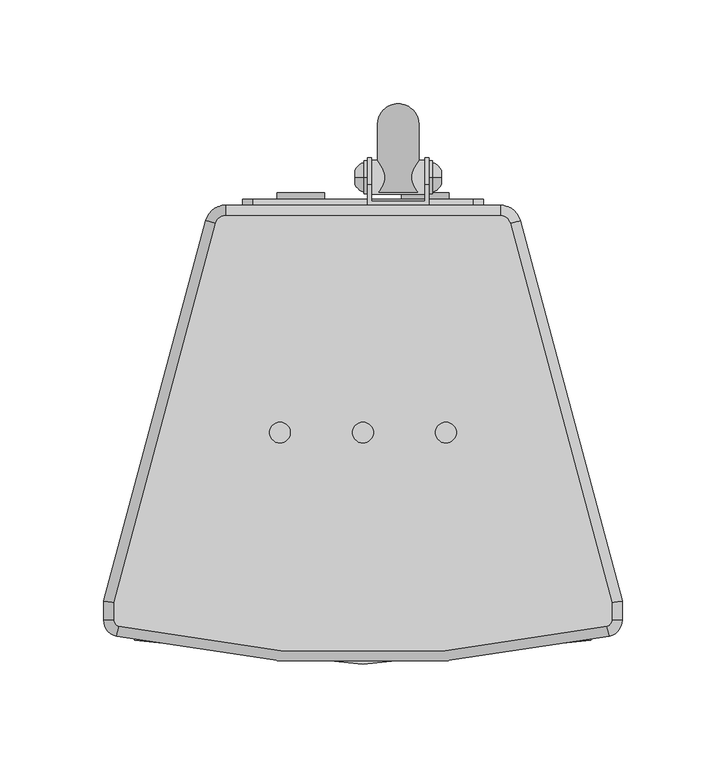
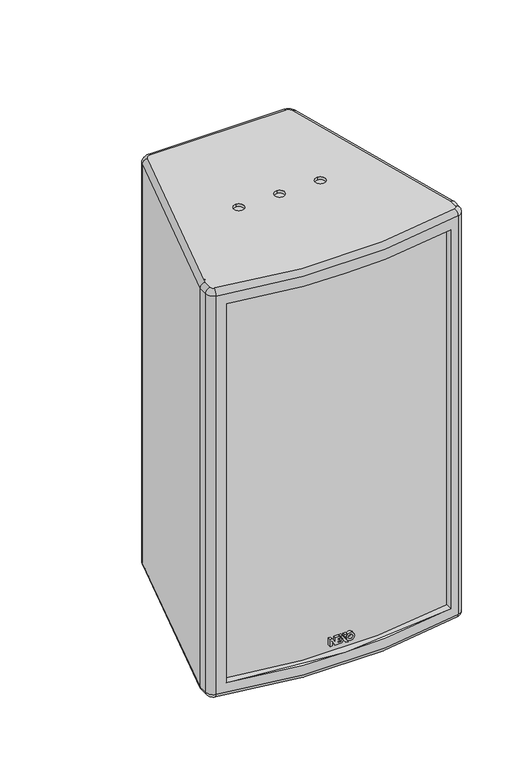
"""IFC4 building model written with IfcOpenShell, lengths in millimetres: proxy geometry, ePS8-WB02-WVM : ePS8-WB02-WVM."""

from ifc_helpers import new_model, si_unit, point, frame, frame_2d, origin, place, context, project, spatial, polyline, circle_curve, ellipse_curve, trimmed, segment, composite_curve, outline, extrude, source, transform, mapped, element, save
from ifc_brep_helpers import plane_surface, cylinder_surface, revolved_surface, advanced_brep


def generic_models_2c264fad(model_context):
    return source(origin(), model_context, "Body", "SolidModel", [
        extrude(outline(polyline([(-191.9209673, -28.9364103), (-199.2007344, -28.9364103), (-199.2007344, -27.0440431), (-195.0354042, -27.0440431), (-199.2007344, -24.2689461), (-199.2007344, -17.4180364), (-197.3257632, -16.0994641), (-195.7262298, -17.1628412), (-197.5980699, -18.5323838), (-197.5980699, -21.5660131), (-196.3437826, -21.5660131), (-196.3437826, -19.2829003), (-194.7410523, -19.2829003), (-194.7410523, -21.5660131), (-193.5245491, -21.5660131), (-193.5245491, -19.1589384), (-192.7245491, -19.1589384), (-191.9218189, -19.6925972), (-191.9218189, -23.9609732), (-196.3718749, -23.9706648), (-191.9209673, -26.909931), (-191.9209673, -28.9364103)])), frame((0.0, -275.5, 0.0), z_axis=(0.0, 1.0, 0.0), x_axis=(0.0, 0.0, 1.0)), (0.0, 0.0, 1.0), 3.0),
        extrude(outline(polyline([(-191.9209673, -19.0512821), (-200.1619142, -13.5726629), (-200.1619142, -11.3794602), (-191.9209673, -16.8580794), (-191.9209673, -19.0512821)])), frame((0.0, -275.5, 0.0), z_axis=(0.0, 1.0, 0.0), x_axis=(0.0, 0.0, 1.0)), (0.0, 0.0, 1.0), 3.0),
        extrude(outline(polyline([(-191.9209673, -12.310648), (-191.9209673, -14.6374386), (-193.1889243, -15.3852329), (-194.8198182, -14.3010071), (-191.9209673, -12.310648)])), frame((0.0, -275.5, 0.0), z_axis=(0.0, 1.0, 0.0), x_axis=(0.0, 0.0, 1.0)), (0.0, 0.0, 1.0), 3.0),
        extrude(outline(composite_curve([segment(trimmed(circle_curve(frame_2d((-195.5918053, -8.9250368)), 3.9406238), [point((-195.5918053, -12.8656607))], [point((-195.5918053, -4.984413))], False, "CARTESIAN"), True, "CONTINUOUS"), segment(trimmed(circle_curve(frame_2d((-195.5918053, -8.9250368)), 3.9406238), [point((-195.5918053, -4.984413))], [point((-195.5918053, -12.8656607))], False, "CARTESIAN"), True, "CONTINUOUS")], self_intersect=False), holes=[composite_curve([segment(trimmed(circle_curve(frame_2d((-195.5918053, -8.9250368)), 2.0681078), [point((-195.5918053, -10.9931446))], [point((-195.5918053, -6.8569291))], True, "CARTESIAN"), True, "CONTINUOUS"), segment(trimmed(circle_curve(frame_2d((-195.5918053, -8.9250368)), 2.0681078), [point((-195.5918053, -6.8569291))], [point((-195.5918053, -10.9931446))], True, "CARTESIAN"), True, "CONTINUOUS")], self_intersect=False)]), frame((0.0, -275.5, 0.0), z_axis=(0.0, 1.0, 0.0), x_axis=(0.0, 0.0, 1.0)), (0.0, 0.0, 1.0), 3.0),
        extrude(outline(composite_curve([segment(trimmed(circle_curve(frame_2d((-183.8619142, 12.9999424)), 11.4515227), [point((-183.8619142, 24.4514651))], [point((-183.8619142, 1.5484198))], False, "CARTESIAN"), True, "CONTINUOUS"), segment(trimmed(circle_curve(frame_2d((-183.8619142, 12.9999424)), 11.4515227), [point((-183.8619142, 1.5484198))], [point((-183.8619142, 24.4514651))], False, "CARTESIAN"), True, "CONTINUOUS")], self_intersect=False), holes=[composite_curve([segment(trimmed(circle_curve(frame_2d((-183.8619142, 12.9999424)), 5.0), [point((-183.8619142, 17.9999424))], [point((-183.8619142, 7.9999424))], True, "CARTESIAN"), True, "CONTINUOUS"), segment(trimmed(circle_curve(frame_2d((-183.8619142, 12.9999424)), 5.0), [point((-183.8619142, 7.9999424))], [point((-183.8619142, 17.9999424))], True, "CARTESIAN"), True, "CONTINUOUS")], self_intersect=False)]), frame((0.0, -56.5, 0.0), z_axis=(0.0, 1.0, 0.0), x_axis=(0.0, 0.0, 1.0)), (0.0, 0.0, 1.0), 3.0),
        extrude(outline(composite_curve([segment(trimmed(circle_curve(frame_2d((-183.8619142, -47.0000576)), 11.4515227), [point((-183.8619142, -35.5485349))], [point((-183.8619142, -58.4515802))], False, "CARTESIAN"), True, "CONTINUOUS"), segment(trimmed(circle_curve(frame_2d((-183.8619142, -47.0000576)), 11.4515227), [point((-183.8619142, -58.4515802))], [point((-183.8619142, -35.5485349))], False, "CARTESIAN"), True, "CONTINUOUS")], self_intersect=False), holes=[composite_curve([segment(trimmed(circle_curve(frame_2d((-183.8619142, -47.0000576)), 5.0), [point((-183.8619142, -42.0000576))], [point((-183.8619142, -52.0000576))], True, "CARTESIAN"), True, "CONTINUOUS"), segment(trimmed(circle_curve(frame_2d((-183.8619142, -47.0000576)), 5.0), [point((-183.8619142, -52.0000576))], [point((-183.8619142, -42.0000576))], True, "CARTESIAN"), True, "CONTINUOUS")], self_intersect=False)]), frame((0.0, -56.5, 0.0), z_axis=(0.0, 1.0, 0.0), x_axis=(0.0, 0.0, 1.0)), (0.0, 0.0, 1.0), 3.0),
        extrude(outline(composite_curve([segment(polyline([(-164.8619142, 35.9999424), (-164.8619142, -70.0000576)]), True, "CONTINUOUS"), segment(trimmed(circle_curve(frame_2d((-169.8619142, -70.0000576)), 5.0), [point((-164.8619142, -70.0000576))], [point((-169.8619142, -75.0000576))], False, "CARTESIAN"), True, "CONTINUOUS"), segment(polyline([(-169.8619142, -75.0000576), (-197.8619142, -75.0000576)]), True, "CONTINUOUS"), segment(trimmed(circle_curve(frame_2d((-197.8619142, -70.0000576)), 5.0), [point((-197.8619142, -75.0000576))], [point((-202.8619142, -70.0000576))], False, "CARTESIAN"), True, "CONTINUOUS"), segment(polyline([(-202.8619142, -70.0000576), (-202.8619142, 35.9999424)]), True, "CONTINUOUS"), segment(trimmed(circle_curve(frame_2d((-197.8619142, 35.9999424)), 5.0), [point((-202.8619142, 35.9999424))], [point((-197.8619142, 40.9999424))], False, "CARTESIAN"), True, "CONTINUOUS"), segment(polyline([(-197.8619142, 40.9999424), (-169.8619142, 40.9999424)]), True, "CONTINUOUS"), segment(trimmed(circle_curve(frame_2d((-169.8619142, 35.9999424)), 5.0), [point((-169.8619142, 40.9999424))], [point((-164.8619142, 35.9999424))], False, "CARTESIAN"), True, "CONTINUOUS")], self_intersect=False)), frame((0.0, -59.5, 0.0), z_axis=(0.0, 1.0, 0.0), x_axis=(0.0, 0.0, 1.0)), (0.0, 0.0, 1.0), 3.0),
        advanced_brep(
        [(-88.0680581, -68.2059048, 201.6380858), (-137.0000576, -250.822613, 201.6380858), (-137.0000576, -259.3294755, 201.6380858), (-134.670601, -262.2535773, 201.6380858), (100.6704859, -262.2535773, 201.6380858), (102.9999424, -259.3294755, 201.6380858), (102.9999424, -250.822613, 201.6380858), (54.067943, -68.2059048, 201.6380858), (49.2383138, -64.5, 201.6380858), (-83.2384289, -64.5, 201.6380858), (-17.0000576, -174.0, 201.6380858), (-17.0000576, -164.0, 201.6380858), (-57.0000576, -174.0, 201.6380858), (-57.0000576, -164.0, 201.6380858), (22.9999424, -174.0, 201.6380858), (22.9999424, -164.0, 201.6380858), (-137.0000576, -250.822613, -221.3619142), (-88.0680581, -68.2059048, -221.3619142), (-83.2384289, -64.5, -221.3619142), (49.2383138, -64.5, -221.3619142), (54.067943, -68.2059048, -221.3619142), (102.9999424, -250.822613, -221.3619142), (102.9999424, -259.3294755, -221.3619142), (100.6704859, -262.2535773, -221.3619142), (-134.670601, -262.2535773, -221.3619142), (-137.0000576, -259.3294755, -221.3619142), (-17.0000576, -164.0, -221.3619142), (-17.0000576, -174.0, -221.3619142), (-57.0000576, -164.0, -221.3619142), (-57.0000576, -174.0, -221.3619142), (22.9999424, -164.0, -221.3619142), (22.9999424, -174.0, -221.3619142), (-83.2384289, -59.5, 196.6380858), (49.2383138, -59.5, 196.6380858), (49.2383138, -59.5, -216.3619142), (-83.2384289, -59.5, -216.3619142), (-64.3433398, -59.5, 10.1423877), (-75.6566602, -59.5, 10.1423877), (5.6566602, -59.5, 10.1423877), (-5.6566602, -59.5, 10.1423877), (5.6566602, -59.5, 80.1423877), (-5.6566602, -59.5, 80.1423877), (101.7880584, -267.1270803, 196.6380858), (-135.7881735, -267.1270803, 196.6380858), (-135.7881735, -267.1270803, -216.3619141), (101.7880584, -267.1270803, -216.3619142), (-127.0000576, -269.0641688, 186.6380858), (92.9999424, -269.0641688, 186.6380858), (92.9999424, -269.0641688, -206.3619142), (-127.0000576, -269.0641688, -206.3619142), (107.9999424, -259.3294755, 196.6380858), (107.9999424, -259.3294755, -216.3619142), (107.9999424, -250.1643505, 196.6380858), (107.9999424, -250.1643505, -216.3619142), (58.8975721, -66.9118095, 196.6380858), (58.8975721, -66.9118095, -216.3619142), (-92.8976872, -66.9118095, 196.6380858), (-92.8976872, -66.9118095, -216.3619142), (-142.0000576, -250.1643505, 196.6380858), (-142.0000576, -250.1643505, -216.3619142), (-142.0000576, -259.3294755, 196.6380858), (-142.0000576, -259.3294755, -216.3619142), (-17.0000576, -164.0, 198.6380858), (-17.0000576, -174.0, 198.6380858), (-57.0000576, -164.0, 198.6380858), (-57.0000576, -174.0, 198.6380858), (22.9999424, -164.0, 198.6380858), (22.9999424, -174.0, 198.6380858), (-127.0000576, -262.3234349, 186.6380858), (92.9999424, -262.2137672, 186.6380858), (92.9999424, -262.2137672, -206.3619142), (-127.0000576, -262.3234349, -206.3619142), (-17.0000576, -164.0, -218.3619142), (-17.0000576, -174.0, -218.3619142), (-57.0000576, -164.0, -218.3619142), (-57.0000576, -174.0, -218.3619142), (22.9999424, -164.0, -218.3619142), (22.9999424, -174.0, -218.3619142), (-64.3433398, -62.5, 10.1423877), (-75.6566602, -62.5, 10.1423877), (5.6566602, -62.5, 10.1423877), (-5.6566602, -62.5, 10.1423877), (5.6566602, -62.5, 80.1423877), (-5.6566602, -62.5, 80.1423877)],
        [
            (0, 1),
            (1, 2),
            (2, 3, circle_curve(frame((-134.0000576, -259.3294755, 201.6380858), z_axis=(0.0, 0.0, 1.0), x_axis=(-0.22351449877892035, -0.9747006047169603, 0.0)), 3.0)),
            (3, 4, circle_curve(frame((-17.0000576, 250.8833804, 201.6380858), z_axis=(0.0, 0.0, 1.0), x_axis=(0.22351449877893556, -0.9747006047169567, 0.0)), 526.4559755)),
            (4, 5, circle_curve(frame((99.9999424, -259.3294755, 201.6380858), z_axis=(0.0, 0.0, 1.0), x_axis=(1.0, 0.0, 0.0)), 3.0)),
            (5, 6),
            (6, 7),
            (7, 8, circle_curve(frame((49.2383138, -69.5, 201.6380858), z_axis=(0.0, 0.0, 1.0), x_axis=(0.0, 1.0, 0.0)), 5.0)),
            (8, 9),
            (9, 0, circle_curve(frame((-83.2384289, -69.5, 201.6380858), z_axis=(0.0, 0.0, 1.0), x_axis=(-0.9659258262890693, 0.25881904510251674, 0.0)), 5.0)),
            (10, 11, circle_curve(frame((-17.0000576, -169.0, 201.6380858), z_axis=(0.0, 0.0, -1.0), x_axis=(0.0, -1.0, 0.0)), 5.0)),
            (11, 10, circle_curve(frame((-17.0000576, -169.0, 201.6380858), z_axis=(0.0, 0.0, -1.0), x_axis=(0.0, -1.0, 0.0)), 5.0)),
            (12, 13, circle_curve(frame((-57.0000576, -169.0, 201.6380858), z_axis=(0.0, 0.0, -1.0), x_axis=(0.0, -1.0, 0.0)), 5.0)),
            (13, 12, circle_curve(frame((-57.0000576, -169.0, 201.6380858), z_axis=(0.0, 0.0, -1.0), x_axis=(0.0, -1.0, 0.0)), 5.0)),
            (14, 15, circle_curve(frame((22.9999424, -169.0, 201.6380858), z_axis=(0.0, 0.0, -1.0), x_axis=(0.0, -1.0, 0.0)), 5.0)),
            (15, 14, circle_curve(frame((22.9999424, -169.0, 201.6380858), z_axis=(0.0, 0.0, -1.0), x_axis=(0.0, -1.0, 0.0)), 5.0)),
            (16, 17),
            (17, 18, circle_curve(frame((-83.2384289, -69.5, -221.3619142), z_axis=(0.0, 0.0, -1.0), x_axis=(-0.9659258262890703, 0.2588190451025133, 0.0)), 5.0)),
            (18, 19),
            (19, 20, circle_curve(frame((49.2383138, -69.5, -221.3619142), z_axis=(0.0, 0.0, -1.0), x_axis=(0.0, 1.0, 0.0)), 5.0)),
            (20, 21),
            (21, 22),
            (22, 23, circle_curve(frame((99.9999424, -259.3294755, -221.3619142), z_axis=(0.0, 0.0, -1.0), x_axis=(1.0, 0.0, 0.0)), 3.0)),
            (23, 24, circle_curve(frame((-17.0000576, 250.8833804, -221.3619142), z_axis=(0.0, 0.0, -1.0), x_axis=(0.22351449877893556, -0.9747006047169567, 0.0)), 526.4559755)),
            (24, 25, circle_curve(frame((-134.0000576, -259.3294755, -221.3619142), z_axis=(0.0, 0.0, -1.0), x_axis=(-0.22351449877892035, -0.9747006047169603, 0.0)), 3.0)),
            (25, 16),
            (26, 27, circle_curve(frame((-17.0000576, -169.0, -221.3619142), z_axis=(0.0, 0.0, 1.0), x_axis=(0.0, -1.0, 0.0)), 5.0)),
            (27, 26, circle_curve(frame((-17.0000576, -169.0, -221.3619142), z_axis=(0.0, 0.0, 1.0), x_axis=(0.0, -1.0, 0.0)), 5.0)),
            (28, 29, circle_curve(frame((-57.0000576, -169.0, -221.3619142), z_axis=(0.0, 0.0, 1.0), x_axis=(0.0, -1.0, 0.0)), 5.0)),
            (29, 28, circle_curve(frame((-57.0000576, -169.0, -221.3619142), z_axis=(0.0, 0.0, 1.0), x_axis=(0.0, -1.0, 0.0)), 5.0)),
            (30, 31, circle_curve(frame((22.9999424, -169.0, -221.3619142), z_axis=(0.0, 0.0, 1.0), x_axis=(0.0, -1.0, 0.0)), 5.0)),
            (31, 30, circle_curve(frame((22.9999424, -169.0, -221.3619142), z_axis=(0.0, 0.0, 1.0), x_axis=(0.0, -1.0, 0.0)), 5.0)),
            (32, 33),
            (33, 34),
            (34, 35),
            (35, 32),
            (36, 37, circle_curve(frame((-70.0, -59.5, 10.1423877), z_axis=(0.0, -1.0, 0.0), x_axis=(-1.0, 0.0, 0.0)), 5.6566602)),
            (37, 36, circle_curve(frame((-70.0, -59.5, 10.1423877), z_axis=(0.0, -1.0, 0.0), x_axis=(-1.0, 0.0, 0.0)), 5.6566602)),
            (38, 39, circle_curve(frame((0.0, -59.5, 10.1423877), z_axis=(0.0, -1.0, 0.0), x_axis=(-1.0, 0.0, 0.0)), 5.6566602)),
            (39, 38, circle_curve(frame((0.0, -59.5, 10.1423877), z_axis=(0.0, -1.0, 0.0), x_axis=(-1.0, 0.0, 0.0)), 5.6566602)),
            (40, 41, circle_curve(frame((0.0, -59.5, 80.1423877), z_axis=(0.0, -1.0, 0.0), x_axis=(-1.0, 0.0, 0.0)), 5.6566602)),
            (41, 40, circle_curve(frame((0.0, -59.5, 80.1423877), z_axis=(0.0, -1.0, 0.0), x_axis=(-1.0, 0.0, 0.0)), 5.6566602)),
            (42, 43, circle_curve(frame((-17.0000576, 250.8833804, 196.6380858), z_axis=(0.0, 0.0, -1.0), x_axis=(1.0, 0.0, 0.0)), 531.4559755)),
            (43, 44),
            (44, 45, circle_curve(frame((-17.0000576, 250.8833804, -216.3619142), z_axis=(0.0, 0.0, 1.0), x_axis=(1.0, 0.0, 0.0)), 531.4559755)),
            (45, 42),
            (46, 47, circle_curve(frame((-17.0000576, 250.8833804, 186.6380858), z_axis=(0.0, 0.0, 1.0), x_axis=(1.0, 0.0, 0.0)), 531.4559755)),
            (47, 48),
            (48, 49, circle_curve(frame((-17.0000576, 250.8833804, -206.3619142), z_axis=(0.0, 0.0, -1.0), x_axis=(1.0, 0.0, 0.0)), 531.4559755)),
            (49, 46),
            (50, 42, circle_curve(frame((99.9999424, -259.3294755, 196.6380858), z_axis=(0.0, 0.0, -1.0), x_axis=(1.0, 0.0, 0.0)), 8.0)),
            (45, 51, circle_curve(frame((99.9999424, -259.3294755, -216.3619142), z_axis=(0.0, 0.0, 1.0), x_axis=(1.0, 0.0, 0.0)), 8.0)),
            (51, 50),
            (52, 50),
            (51, 53),
            (53, 52),
            (54, 52),
            (53, 55),
            (55, 54),
            (33, 54, circle_curve(frame((49.2383138, -69.5, 196.6380858), z_axis=(0.0, 0.0, -1.0), x_axis=(1.0, 0.0, 0.0)), 10.0)),
            (55, 34, circle_curve(frame((49.2383138, -69.5, -216.3619142), z_axis=(0.0, 0.0, 1.0), x_axis=(1.0, 0.0, 0.0)), 10.0)),
            (56, 32, circle_curve(frame((-83.2384289, -69.5, 196.6380858), z_axis=(0.0, 0.0, -1.0), x_axis=(1.0, 0.0, 0.0)), 10.0)),
            (35, 57, circle_curve(frame((-83.2384289, -69.5, -216.3619142), z_axis=(0.0, 0.0, 1.0), x_axis=(1.0, 0.0, 0.0)), 10.0)),
            (57, 56),
            (58, 56),
            (57, 59),
            (59, 58),
            (60, 58),
            (59, 61),
            (61, 60),
            (43, 60, circle_curve(frame((-134.0000576, -259.3294755, 196.6380858), z_axis=(0.0, 0.0, -1.0), x_axis=(1.0, 0.0, 0.0)), 8.0)),
            (61, 44, circle_curve(frame((-134.0000576, -259.3294755, -216.3619142), z_axis=(0.0, 0.0, 1.0), x_axis=(1.0, 0.0, 0.0)), 8.0)),
            (62, 63, circle_curve(frame((-17.0000576, -169.0, 198.6380858), z_axis=(0.0, 0.0, 1.0), x_axis=(0.0, -1.0, 0.0)), 5.0)),
            (63, 62, circle_curve(frame((-17.0000576, -169.0, 198.6380858), z_axis=(0.0, 0.0, 1.0), x_axis=(0.0, -1.0, 0.0)), 5.0)),
            (64, 65, circle_curve(frame((-57.0000576, -169.0, 198.6380858), z_axis=(0.0, 0.0, 1.0), x_axis=(0.0, -1.0, 0.0)), 5.0)),
            (65, 64, circle_curve(frame((-57.0000576, -169.0, 198.6380858), z_axis=(0.0, 0.0, 1.0), x_axis=(0.0, -1.0, 0.0)), 5.0)),
            (66, 67, circle_curve(frame((22.9999424, -169.0, 198.6380858), z_axis=(0.0, 0.0, 1.0), x_axis=(0.0, -1.0, 0.0)), 5.0)),
            (67, 66, circle_curve(frame((22.9999424, -169.0, 198.6380858), z_axis=(0.0, 0.0, 1.0), x_axis=(0.0, -1.0, 0.0)), 5.0)),
            (62, 11),
            (10, 63),
            (64, 13),
            (12, 65),
            (66, 15),
            (14, 67),
            (46, 68),
            (68, 69, circle_curve(frame((-17.2541484, 247.4531533, 186.6380858), z_axis=(0.0, 0.0, 1.0), x_axis=(1.0, 0.0, 0.0)), 521.4559755)),
            (69, 47),
            (48, 70),
            (70, 71, circle_curve(frame((-17.2541484, 247.4531533, -206.3619142), z_axis=(0.0, 0.0, -1.0), x_axis=(1.0, 0.0, 0.0)), 521.4559755)),
            (71, 49),
            (69, 70),
            (68, 71),
            (0, 56, circle_curve(frame((-88.0680581, -68.2059048, 196.6380858), z_axis=(-0.25881904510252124, -0.9659258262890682, 0.0), x_axis=(-0.9659258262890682, 0.25881904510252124, 0.0)), 5.0)),
            (58, 1, ellipse_curve(frame((-137.0000576, -250.822613, 196.6380858), z_axis=(0.130526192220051, 0.9914448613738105, 0.0), x_axis=(0.9914448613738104, -0.13052619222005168, 0.0)), 5.0431448, 5.0)),
            (9, 32, circle_curve(frame((-83.2384289, -64.5, 196.6380858), z_axis=(-1.0, 0.0, 0.0), x_axis=(0.0, 1.0, 0.0)), 5.0)),
            (8, 33, circle_curve(frame((49.2383138, -64.5, 196.6380858), z_axis=(-1.0, 0.0, 0.0), x_axis=(0.0, 1.0, 0.0)), 5.0)),
            (7, 54, circle_curve(frame((54.067943, -68.2059048, 196.6380858), z_axis=(-0.2588190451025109, 0.9659258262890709, 0.0), x_axis=(0.9659258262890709, 0.2588190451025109, 0.0)), 5.0)),
            (6, 52, ellipse_curve(frame((102.9999424, -250.822613, 196.6380858), z_axis=(-0.1305261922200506, 0.9914448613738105, 0.0), x_axis=(0.9914448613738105, 0.1305261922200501, 0.0)), 5.0431448, 5.0)),
            (60, 2, circle_curve(frame((-137.0000576, -259.3294755, 196.6380858), z_axis=(0.0, 1.0, 0.0), x_axis=(-1.0, 0.0, 0.0)), 5.0)),
            (5, 50, circle_curve(frame((102.9999424, -259.3294755, 196.6380858), z_axis=(0.0, 1.0, 0.0), x_axis=(1.0, 0.0, 0.0)), 5.0)),
            (4, 42, circle_curve(frame((100.6704859, -262.2535773, 196.6380858), z_axis=(0.9747006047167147, 0.22351449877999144, 0.0), x_axis=(0.22351449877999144, -0.9747006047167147, 0.0)), 5.0)),
            (3, 43, circle_curve(frame((-134.670601, -262.2535773, 196.6380858), z_axis=(0.9747006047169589, -0.22351449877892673, 0.0), x_axis=(-0.22351449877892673, -0.9747006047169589, 0.0)), 5.0)),
            (57, 17, circle_curve(frame((-88.0680581, -68.2059048, -216.3619142), z_axis=(-0.2588190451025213, -0.9659258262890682, 0.0), x_axis=(-0.9659258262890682, 0.2588190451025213, 0.0)), 5.0)),
            (16, 59, ellipse_curve(frame((-137.0000576, -250.822613, -216.3619142), z_axis=(0.13052619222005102, 0.9914448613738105, 0.0), x_axis=(0.9914448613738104, -0.13052619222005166, 0.0)), 5.0431448, 5.0)),
            (35, 18, circle_curve(frame((-83.2384289, -64.5, -216.3619142), z_axis=(-1.0, 0.0, 0.0), x_axis=(0.0, 1.0, 0.0)), 5.0)),
            (34, 19, circle_curve(frame((49.2383138, -64.5, -216.3619142), z_axis=(-1.0, 0.0, 0.0), x_axis=(0.0, 1.0, 0.0)), 5.0)),
            (55, 20, circle_curve(frame((54.067943, -68.2059048, -216.3619142), z_axis=(-0.25881904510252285, 0.9659258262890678, 0.0), x_axis=(0.9659258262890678, 0.25881904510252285, 0.0)), 5.0)),
            (53, 21, ellipse_curve(frame((102.9999424, -250.822613, -216.3619142), z_axis=(-0.13052619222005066, 0.9914448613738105, 0.0), x_axis=(0.9914448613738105, 0.1305261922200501, 0.0)), 5.0431448, 5.0)),
            (25, 61, circle_curve(frame((-137.0000576, -259.3294755, -216.3619142), z_axis=(0.0, 1.0, 0.0), x_axis=(-1.0, 0.0, 0.0)), 5.0)),
            (51, 22, circle_curve(frame((102.9999424, -259.3294755, -216.3619142), z_axis=(0.0, 1.0, 0.0), x_axis=(1.0, 0.0, 0.0)), 5.0)),
            (45, 23, circle_curve(frame((100.6704859, -262.2535773, -216.3619142), z_axis=(0.9747006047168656, 0.2235144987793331, 0.0), x_axis=(0.2235144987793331, -0.9747006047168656, 0.0)), 5.0)),
            (44, 24, circle_curve(frame((-134.670601, -262.2535773, -216.3619142), z_axis=(0.9747006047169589, -0.22351449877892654, 0.0), x_axis=(-0.22351449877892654, -0.9747006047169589, 0.0)), 5.0)),
            (72, 73, circle_curve(frame((-17.0000576, -169.0, -218.3619142), z_axis=(0.0, 0.0, -1.0), x_axis=(0.0, -1.0, 0.0)), 5.0)),
            (73, 72, circle_curve(frame((-17.0000576, -169.0, -218.3619142), z_axis=(0.0, 0.0, -1.0), x_axis=(0.0, -1.0, 0.0)), 5.0)),
            (74, 75, circle_curve(frame((-57.0000576, -169.0, -218.3619142), z_axis=(0.0, 0.0, -1.0), x_axis=(0.0, -1.0, 0.0)), 5.0)),
            (75, 74, circle_curve(frame((-57.0000576, -169.0, -218.3619142), z_axis=(0.0, 0.0, -1.0), x_axis=(0.0, -1.0, 0.0)), 5.0)),
            (76, 77, circle_curve(frame((22.9999424, -169.0, -218.3619142), z_axis=(0.0, 0.0, -1.0), x_axis=(0.0, -1.0, 0.0)), 5.0)),
            (77, 76, circle_curve(frame((22.9999424, -169.0, -218.3619142), z_axis=(0.0, 0.0, -1.0), x_axis=(0.0, -1.0, 0.0)), 5.0)),
            (73, 27),
            (26, 72),
            (75, 29),
            (28, 74),
            (77, 31),
            (30, 76),
            (78, 79, circle_curve(frame((-70.0, -62.5, 10.1423877), z_axis=(0.0, 1.0, 0.0), x_axis=(-1.0, 0.0, 0.0)), 5.6566602)),
            (79, 78, circle_curve(frame((-70.0, -62.5, 10.1423877), z_axis=(0.0, 1.0, 0.0), x_axis=(-1.0, 0.0, 0.0)), 5.6566602)),
            (80, 81, circle_curve(frame((0.0, -62.5, 10.1423877), z_axis=(0.0, 1.0, 0.0), x_axis=(-1.0, 0.0, 0.0)), 5.6566602)),
            (81, 80, circle_curve(frame((0.0, -62.5, 10.1423877), z_axis=(0.0, 1.0, 0.0), x_axis=(-1.0, 0.0, 0.0)), 5.6566602)),
            (82, 83, circle_curve(frame((0.0, -62.5, 80.1423877), z_axis=(0.0, 1.0, 0.0), x_axis=(-1.0, 0.0, 0.0)), 5.6566602)),
            (83, 82, circle_curve(frame((0.0, -62.5, 80.1423877), z_axis=(0.0, 1.0, 0.0), x_axis=(-1.0, 0.0, 0.0)), 5.6566602)),
            (79, 37),
            (36, 78),
            (81, 39),
            (38, 80),
            (83, 41),
            (40, 82),
        ],
        [
            plane_surface(frame((107.9999424, -259.3294755, 201.6380858), z_axis=(0.0, 0.0, 1.0), x_axis=(0.0, 1.0, 0.0))),
            plane_surface(frame((107.9999424, -259.3294755, -221.3619142), z_axis=(0.0, 0.0, -1.0), x_axis=(0.0, -1.0, 0.0))),
            plane_surface(frame((49.2383138, -59.5, 201.6380858), z_axis=(0.0, 1.0, 0.0), x_axis=(0.0, 0.0, -1.0))),
            cylinder_surface(frame((-17.0000576, 250.8833804, -221.3619142), z_axis=(0.0, 0.0, 1.0), x_axis=(1.0, 0.0, 0.0)), 531.4559755),
            cylinder_surface(frame((99.9999424, -259.3294755, -221.3619142), z_axis=(0.0, 0.0, 1.0), x_axis=(1.0, 0.0, 0.0)), 8.0),
            plane_surface(frame((107.9999424, -259.3294755, 201.6380858), z_axis=(1.0, 0.0, 0.0), x_axis=(0.0, 0.0, -1.0))),
            plane_surface(frame((107.9999424, -250.1643505, 201.6380858), z_axis=(0.9659258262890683, 0.2588190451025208, 0.0), x_axis=(0.0, 0.0, -1.0))),
            cylinder_surface(frame((49.2383138, -69.5, -221.3619142), z_axis=(0.0, 0.0, 1.0), x_axis=(1.0, 0.0, 0.0)), 10.0),
            cylinder_surface(frame((-83.2384289, -69.5, -221.3619142), z_axis=(0.0, 0.0, 1.0), x_axis=(1.0, 0.0, 0.0)), 10.0),
            plane_surface(frame((-92.8976872, -66.9118095, 201.6380858), z_axis=(-0.9659258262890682, 0.2588190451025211, 0.0), x_axis=(0.0, 0.0, -1.0))),
            plane_surface(frame((-142.0000576, -250.1643505, 201.6380858), z_axis=(-1.0, 0.0, 0.0), x_axis=(0.0, 0.0, -1.0))),
            cylinder_surface(frame((-134.0000576, -259.3294755, -221.3619142), z_axis=(0.0, 0.0, 1.0), x_axis=(1.0, 0.0, 0.0)), 8.0),
            plane_surface(frame((-17.0000576, -174.0, 198.6380858), z_axis=(0.0, 0.0, 1.0), x_axis=(-1.0, 0.0, 0.0))),
            revolved_surface(polyline([(-17.0000576, -174.0, 201.6380858), (-17.0000576, -174.0, 198.6380858)]), (-17.0000576, -169.0, 198.6380858), (0.0, 0.0, 1.0)),
            revolved_surface(polyline([(-57.0000576, -174.0, 201.6380858), (-57.0000576, -174.0, 198.6380858)]), (-57.0000576, -169.0, 201.6380858), (0.0, 0.0, 1.0)),
            revolved_surface(polyline([(22.9999424, -174.0, 201.6380858), (22.9999424, -174.0, 198.6380858)]), (22.9999424, -169.0, 201.6380858), (0.0, 0.0, 1.0)),
            plane_surface(frame((92.9999424, -326.7599178, 186.6380858), z_axis=(0.0, 0.0, -1.0), x_axis=(0.0, 1.0, 0.0))),
            plane_surface(frame((92.9999424, -326.7599178, -206.3619142), z_axis=(0.0, 0.0, 1.0), x_axis=(0.0, -1.0, 0.0))),
            plane_surface(frame((92.9999424, -269.0641688, 186.6380858), z_axis=(-1.0, 0.0, 0.0), x_axis=(0.0, 0.0, -1.0))),
            cylinder_surface(frame((-17.2541484, 247.4531533, -206.3619142), z_axis=(0.0, 0.0, -1.0), x_axis=(1.0, 0.0, 0.0)), 521.4559755),
            plane_surface(frame((-127.0000576, -262.3234349, 186.6380858), z_axis=(1.0, 0.0, 0.0), x_axis=(0.0, 0.0, -1.0))),
            cylinder_surface(frame((-137.1704284, -251.4584457, 196.6380858), z_axis=(0.25881904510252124, 0.9659258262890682, 0.0), x_axis=(-0.9659258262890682, 0.25881904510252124, 0.0)), 5.0),
            revolved_surface(trimmed(ellipse_curve(frame((-88.0680581, -68.2059048, 196.6380858), z_axis=(-0.25881904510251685, -0.9659258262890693, 0.0), x_axis=(-0.9659258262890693, 0.25881904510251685, 0.0)), 5.0, 5.0), [point((-88.0680581, -68.2059048, 201.6380858))], [point((-92.8976872, -66.9118095, 196.6380858))], True, "CARTESIAN"), (-83.2384289, -69.5, 201.6380858), (0.0, 0.0, -1.0)),
            cylinder_surface(frame((-83.2384289, -64.5, 196.6380858), z_axis=(1.0, 0.0, 0.0), x_axis=(0.0, 1.0, 0.0)), 5.0),
            revolved_surface(trimmed(ellipse_curve(frame((49.2383138, -64.5, 196.6380858), z_axis=(-1.0, 0.0, 0.0), x_axis=(0.0, 1.0, 0.0)), 5.0, 5.0), [point((49.2383138, -64.5, 201.6380858))], [point((49.2383138, -59.5, 196.6380858))], True, "CARTESIAN"), (49.2383138, -69.5, 201.6380858), (0.0, 0.0, -1.0)),
            cylinder_surface(frame((54.067943, -68.2059048, 196.6380858), z_axis=(0.25881904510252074, -0.9659258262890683, 0.0), x_axis=(0.9659258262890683, 0.25881904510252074, 0.0)), 5.0),
            cylinder_surface(frame((-137.0000576, -259.3294755, 196.6380858), z_axis=(0.0, 1.0, 0.0), x_axis=(-1.0, 0.0, 0.0)), 5.0),
            cylinder_surface(frame((102.9999424, -250.1643505, 196.6380858), z_axis=(0.0, -1.0, 0.0), x_axis=(1.0, 0.0, 0.0)), 5.0),
            revolved_surface(trimmed(ellipse_curve(frame((102.9999424, -259.3294755, 196.6380858), z_axis=(0.0, 1.0, 0.0), x_axis=(1.0, 0.0, 0.0)), 5.0, 5.0), [point((102.9999424, -259.3294755, 201.6380858))], [point((107.9999424, -259.3294755, 196.6380858))], True, "CARTESIAN"), (99.9999424, -259.3294755, 201.6380858), (0.0, 0.0, -1.0)),
            revolved_surface(trimmed(ellipse_curve(frame((100.6704859, -262.2535773, 196.6380858), z_axis=(0.9747006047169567, 0.2235144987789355, 0.0), x_axis=(0.2235144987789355, -0.9747006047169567, 0.0)), 5.0, 5.0), [point((100.6704859, -262.2535773, 201.6380858))], [point((101.7880584, -267.1270803, 196.6380858))], True, "CARTESIAN"), (-17.0000576, 250.8833804, 201.6380858), (0.0, 0.0, -1.0)),
            revolved_surface(trimmed(ellipse_curve(frame((-134.670601, -262.2535773, 196.6380858), z_axis=(0.9747006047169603, -0.22351449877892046, 0.0), x_axis=(-0.22351449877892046, -0.9747006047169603, 0.0)), 5.0, 5.0), [point((-134.670601, -262.2535773, 201.6380858))], [point((-135.7881735, -267.1270803, 196.6380858))], True, "CARTESIAN"), (-134.0000576, -259.3294755, 201.6380858), (0.0, 0.0, -1.0)),
            cylinder_surface(frame((-137.1704284, -251.4584457, -216.3619142), z_axis=(0.2588190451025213, 0.9659258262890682, 0.0), x_axis=(-0.9659258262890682, 0.2588190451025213, 0.0)), 5.0),
            revolved_surface(trimmed(ellipse_curve(frame((-88.0680581, -68.2059048, -216.3619142), z_axis=(-0.25881904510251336, -0.9659258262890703, 0.0), x_axis=(-0.9659258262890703, 0.25881904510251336, 0.0)), 5.0, 5.0), [point((-92.8976872, -66.9118095, -216.3619142))], [point((-88.0680581, -68.2059048, -221.3619142))], True, "CARTESIAN"), (-83.2384289, -69.5, -221.3619142), (0.0, 0.0, -1.0)),
            cylinder_surface(frame((-83.2384289, -64.5, -216.3619142), z_axis=(1.0, 0.0, 0.0), x_axis=(0.0, 1.0, 0.0)), 5.0),
            revolved_surface(trimmed(ellipse_curve(frame((49.2383138, -64.5, -216.3619142), z_axis=(-1.0, 0.0, 0.0), x_axis=(0.0, 1.0, 0.0)), 5.0, 5.0), [point((49.2383138, -59.5, -216.3619142))], [point((49.2383138, -64.5, -221.3619142))], True, "CARTESIAN"), (49.2383138, -69.5, -221.3619142), (0.0, 0.0, -1.0)),
            cylinder_surface(frame((54.067943, -68.2059048, -216.3619142), z_axis=(0.2588190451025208, -0.9659258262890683, 0.0), x_axis=(0.9659258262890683, 0.2588190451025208, 0.0)), 5.0),
            cylinder_surface(frame((-137.0000576, -259.3294755, -216.3619142), z_axis=(0.0, 1.0, 0.0), x_axis=(-1.0, 0.0, 0.0)), 5.0),
            cylinder_surface(frame((102.9999424, -250.1643505, -216.3619142), z_axis=(0.0, -1.0, 0.0), x_axis=(1.0, 0.0, 0.0)), 5.0),
            revolved_surface(trimmed(ellipse_curve(frame((102.9999424, -259.3294755, -216.3619142), z_axis=(0.0, 1.0, 0.0), x_axis=(1.0, 0.0, 0.0)), 5.0, 5.0), [point((107.9999424, -259.3294755, -216.3619142))], [point((102.9999424, -259.3294755, -221.3619142))], True, "CARTESIAN"), (99.9999424, -259.3294755, -221.3619142), (0.0, 0.0, -1.0)),
            revolved_surface(trimmed(ellipse_curve(frame((100.6704859, -262.2535773, -216.3619142), z_axis=(0.9747006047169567, 0.22351449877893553, 0.0), x_axis=(0.22351449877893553, -0.9747006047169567, 0.0)), 5.0, 5.0), [point((101.7880584, -267.1270803, -216.3619142))], [point((100.6704859, -262.2535773, -221.3619142))], True, "CARTESIAN"), (-17.0000576, 250.8833804, -221.3619142), (0.0, 0.0, -1.0)),
            revolved_surface(trimmed(ellipse_curve(frame((-134.670601, -262.2535773, -216.3619142), z_axis=(0.9747006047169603, -0.22351449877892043, 0.0), x_axis=(-0.22351449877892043, -0.9747006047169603, 0.0)), 5.0, 5.0), [point((-135.7881735, -267.1270803, -216.3619142))], [point((-134.670601, -262.2535773, -221.3619142))], True, "CARTESIAN"), (-134.0000576, -259.3294755, -221.3619142), (0.0, 0.0, -1.0)),
            plane_surface(frame((-17.0000576, -174.0, -218.3619142), z_axis=(0.0, 0.0, -1.0), x_axis=(1.0, 0.0, 0.0))),
            revolved_surface(polyline([(-17.0000576, -174.0, -218.3619142), (-17.0000576, -174.0, -221.3619142)]), (-17.0000576, -169.0, -224.3619142), (0.0, 0.0, 1.0)),
            revolved_surface(polyline([(-57.0000576, -174.0, -218.3619142), (-57.0000576, -174.0, -221.3619142)]), (-57.0000576, -169.0, -221.3619142), (0.0, 0.0, 1.0)),
            revolved_surface(polyline([(22.9999424, -174.0, -218.3619142), (22.9999424, -174.0, -221.3619142)]), (22.9999424, -169.0, -221.3619142), (0.0, 0.0, 1.0)),
            plane_surface(frame((-75.6566602, -62.5, 10.1423877), z_axis=(0.0, 1.0, 0.0), x_axis=(0.0, 0.0, -1.0))),
            revolved_surface(polyline([(-75.6566602, -59.5, 10.1423877), (-75.6566602, -62.5, 10.1423877)]), (-70.0, -62.5, 10.1423877), (0.0, 1.0, 0.0)),
            revolved_surface(polyline([(-5.6566602, -59.5, 10.1423877), (-5.6566602, -62.5, 10.1423877)]), (0.0, -59.5, 10.1423877), (0.0, 1.0, 0.0)),
            revolved_surface(polyline([(-5.6566602, -59.5, 80.1423877), (-5.6566602, -62.5, 80.1423877)]), (0.0, -59.5, 80.1423877), (0.0, 1.0, 0.0)),
        ],
        [
            (0, [[1, 2, 3, 4, 5, 6, 7, 8, 9, 10], [11, 12], [13, 14], [15, 16]]),
            (1, [[17, 18, 19, 20, 21, 22, 23, 24, 25, 26], [27, 28], [29, 30], [31, 32]]),
            (2, [[33, 34, 35, 36], [37, 38], [39, 40], [41, 42]]),
            (3, [[43, 44, 45, 46], [47, 48, 49, 50]]),
            (4, [[51, -46, 52, 53]]),
            (5, [[54, -53, 55, 56]]),
            (6, [[57, -56, 58, 59]]),
            (7, [[60, -59, 61, -34]]),
            (8, [[62, -36, 63, 64]]),
            (9, [[65, -64, 66, 67]]),
            (10, [[68, -67, 69, 70]]),
            (11, [[71, -70, 72, -44]]),
            (12, [[73, 74]]),
            (12, [[75, 76]]),
            (12, [[77, 78]]),
            (13, [[-73, 79, -11, 80]]),
            (13, [[-74, -80, -12, -79]]),
            (14, [[-75, 81, -13, 82]]),
            (14, [[-76, -82, -14, -81]]),
            (15, [[-77, 83, -15, 84]]),
            (15, [[-78, -84, -16, -83]]),
            (16, [[85, 86, 87, -47]]),
            (17, [[88, 89, 90, -49]]),
            (18, [[-87, 91, -88, -48]]),
            (19, [[-86, 92, -89, -91]]),
            (20, [[-85, -50, -90, -92]]),
            (21, [[93, -65, 94, -1]]),
            (22, [[-93, -10, 95, -62]]),
            (23, [[-95, -9, 96, -33]]),
            (24, [[-96, -8, 97, -60]]),
            (25, [[-97, -7, 98, -57]]),
            (26, [[-94, -68, 99, -2]]),
            (27, [[-98, -6, 100, -54]]),
            (28, [[-100, -5, 101, -51]]),
            (29, [[-101, -4, 102, -43]]),
            (30, [[-99, -71, -102, -3]]),
            (31, [[103, -17, 104, -66]]),
            (32, [[-103, -63, 105, -18]]),
            (33, [[-105, -35, 106, -19]]),
            (34, [[-106, -61, 107, -20]]),
            (35, [[-107, -58, 108, -21]]),
            (36, [[-104, -26, 109, -69]]),
            (37, [[-108, -55, 110, -22]]),
            (38, [[-110, -52, 111, -23]]),
            (39, [[-111, -45, 112, -24]]),
            (40, [[-109, -25, -112, -72]]),
            (41, [[113, 114]]),
            (41, [[115, 116]]),
            (41, [[117, 118]]),
            (42, [[-114, 119, -27, 120]]),
            (42, [[-113, -120, -28, -119]]),
            (43, [[-116, 121, -29, 122]]),
            (43, [[-115, -122, -30, -121]]),
            (44, [[-118, 123, -31, 124]]),
            (44, [[-117, -124, -32, -123]]),
            (45, [[125, 126]]),
            (45, [[127, 128]]),
            (45, [[129, 130]]),
            (46, [[-126, 131, -37, 132]]),
            (46, [[-125, -132, -38, -131]]),
            (47, [[-128, 133, -39, 134]]),
            (47, [[-127, -134, -40, -133]]),
            (48, [[-130, 135, -41, 136]]),
            (48, [[-129, -136, -42, -135]]),
        ],
    ),
        advanced_brep(
        [(14.9, -46.0106159, 44.4990479), (14.9, -46.0106159, 52.4990479), (14.9, -46.0106159, 36.4990479), (20.8, -46.0106159, 41.0490479), (20.8, -46.0106159, 47.9490479), (20.8, -46.0106159, 44.4990479), (16.5, -46.0106159, 37.3239418), (16.5, -46.0106159, 51.6741539), (16.5, -46.0106159, 36.4990479), (16.5, -46.0106159, 52.4990479)],
        [
            (0, 1),
            (1, 2, circle_curve(frame((14.9, -46.0106159, 44.4990479), z_axis=(-1.0, 0.0, 0.0), x_axis=(0.0, 0.0, 1.0)), 8.0)),
            (2, 0),
            (2, 1, circle_curve(frame((14.9, -46.0106159, 44.4990479), z_axis=(-1.0, 0.0, 0.0), x_axis=(0.0, 0.0, 1.0)), 8.0)),
            (3, 4, circle_curve(frame((20.8, -46.0106159, 44.4990479), z_axis=(1.0, 0.0, 0.0), x_axis=(0.0, 0.0, 1.0)), 3.45)),
            (4, 5),
            (5, 3),
            (4, 3, circle_curve(frame((20.8, -46.0106159, 44.4990479), z_axis=(1.0, 0.0, 0.0), x_axis=(0.0, 0.0, 1.0)), 3.45)),
            (6, 7, circle_curve(frame((16.5, -46.0106159, 44.4990479), z_axis=(1.0, 0.0, 0.0), x_axis=(0.0, 0.0, 1.0)), 7.1751061)),
            (7, 4, circle_curve(frame((14.5249579, -46.0106159, 45.0499429), z_axis=(0.0, 1.0, 0.0), x_axis=(1.0, 0.0, 0.0)), 6.9123776)),
            (3, 6, circle_curve(frame((14.5249579, -46.0106159, 43.9481528), z_axis=(0.0, 1.0, 0.0), x_axis=(1.0, 0.0, 0.0)), 6.9123776)),
            (7, 6, circle_curve(frame((16.5, -46.0106159, 44.4990479), z_axis=(1.0, 0.0, 0.0), x_axis=(0.0, 0.0, 1.0)), 7.1751061)),
            (8, 9, circle_curve(frame((16.5, -46.0106159, 44.4990479), z_axis=(1.0, 0.0, 0.0), x_axis=(0.0, 0.0, 1.0)), 8.0)),
            (9, 7),
            (6, 8),
            (9, 8, circle_curve(frame((16.5, -46.0106159, 44.4990479), z_axis=(1.0, 0.0, 0.0), x_axis=(0.0, 0.0, 1.0)), 8.0)),
            (1, 9),
            (8, 2),
        ],
        [
            plane_surface(frame((14.9, -46.0106159, 44.4990479), z_axis=(-1.0, 0.0, 0.0), x_axis=(0.0, 0.0, 1.0))),
            plane_surface(frame((20.8, -46.0106159, 44.4990479), z_axis=(1.0, 0.0, 0.0), x_axis=(0.0, 0.0, 1.0))),
            revolved_surface(trimmed(ellipse_curve(frame((14.5249579, -46.0106159, 45.0499429), z_axis=(0.0, -1.0, 0.0), x_axis=(1.0, 0.0, 0.0)), 6.9123776, 6.9123776), [point((20.8, -46.0106159, 47.9490479))], [point((16.5, -46.0106159, 51.6741539))], True, "CARTESIAN"), (28.5421088, -46.0106159, 44.4990479), (-1.0, 0.0, 0.0)),
            plane_surface(frame((16.5, -46.0106159, 44.4990479), z_axis=(1.0, 0.0, 0.0), x_axis=(0.0, 0.0, 1.0))),
            cylinder_surface(frame((28.5421088, -46.0106159, 44.4990479), z_axis=(-1.0, 0.0, 0.0), x_axis=(0.0, 0.0, 1.0)), 8.0),
        ],
        [
            (0, [[1, 2, 3]]),
            (0, [[-3, 4, -1]]),
            (1, [[5, 6, 7]]),
            (1, [[8, -7, -6]]),
            (2, [[9, 10, -5, 11]]),
            (2, [[12, -11, -8, -10]]),
            (3, [[13, 14, -9, 15]]),
            (3, [[16, -15, -12, -14]]),
            (4, [[-2, 17, -13, 18]]),
            (4, [[-4, -18, -16, -17]]),
        ],
    ),
        advanced_brep(
        [(-16.5, -46.0106159, 36.4990479), (-16.5, -46.0106159, 52.4990479), (-14.9, -46.0106159, 52.4990479), (-14.9, -46.0106159, 36.4990479), (-16.5, -46.0106159, 37.3239418), (-16.5, -46.0106159, 51.6741539), (-20.8, -46.0106159, 41.0490479), (-20.8, -46.0106159, 47.9490479), (-20.8, -46.0106159, 44.4990479), (-14.9, -46.0106159, 44.4990479)],
        [
            (0, 1, circle_curve(frame((-16.5, -46.0106159, 44.4990479), z_axis=(1.0, 0.0, 0.0), x_axis=(0.0, 0.0, 1.0)), 8.0)),
            (1, 2),
            (2, 3, circle_curve(frame((-14.9, -46.0106159, 44.4990479), z_axis=(-1.0, 0.0, 0.0), x_axis=(0.0, 0.0, 1.0)), 8.0)),
            (3, 0),
            (1, 0, circle_curve(frame((-16.5, -46.0106159, 44.4990479), z_axis=(1.0, 0.0, 0.0), x_axis=(0.0, 0.0, 1.0)), 8.0)),
            (3, 2, circle_curve(frame((-14.9, -46.0106159, 44.4990479), z_axis=(-1.0, 0.0, 0.0), x_axis=(0.0, 0.0, 1.0)), 8.0)),
            (4, 5, circle_curve(frame((-16.5, -46.0106159, 44.4990479), z_axis=(1.0, 0.0, 0.0), x_axis=(0.0, 0.0, 1.0)), 7.1751061)),
            (5, 1),
            (0, 4),
            (5, 4, circle_curve(frame((-16.5, -46.0106159, 44.4990479), z_axis=(1.0, 0.0, 0.0), x_axis=(0.0, 0.0, 1.0)), 7.1751061)),
            (6, 7, circle_curve(frame((-20.8, -46.0106159, 44.4990479), z_axis=(1.0, 0.0, 0.0), x_axis=(0.0, 0.0, 1.0)), 3.45)),
            (7, 5, circle_curve(frame((-14.5249579, -46.0106159, 45.0499429), z_axis=(0.0, 1.0, 0.0), x_axis=(-1.0, 0.0, 0.0)), 6.9123776)),
            (4, 6, circle_curve(frame((-14.5249579, -46.0106159, 43.9481528), z_axis=(0.0, 1.0, 0.0), x_axis=(-1.0, 0.0, 0.0)), 6.9123776)),
            (7, 6, circle_curve(frame((-20.8, -46.0106159, 44.4990479), z_axis=(1.0, 0.0, 0.0), x_axis=(0.0, 0.0, 1.0)), 3.45)),
            (8, 7),
            (6, 8),
            (2, 9),
            (9, 3),
        ],
        [
            cylinder_surface(frame((28.5421088, -46.0106159, 44.4990479), z_axis=(-1.0, 0.0, 0.0), x_axis=(0.0, 0.0, 1.0)), 8.0),
            plane_surface(frame((-16.5, -46.0106159, 44.4990479), z_axis=(-1.0, 0.0, 0.0), x_axis=(0.0, 0.0, 1.0))),
            revolved_surface(trimmed(ellipse_curve(frame((-14.5249579, -46.0106159, 45.0499429), z_axis=(0.0, -1.0, 0.0), x_axis=(-1.0, 0.0, 0.0)), 6.9123776, 6.9123776), [point((-16.5, -46.0106159, 51.6741539))], [point((-20.8, -46.0106159, 47.9490479))], True, "CARTESIAN"), (28.5421088, -46.0106159, 44.4990479), (-1.0, 0.0, 0.0)),
            plane_surface(frame((-20.8, -46.0106159, 44.4990479), z_axis=(-1.0, 0.0, 0.0), x_axis=(0.0, 0.0, 1.0))),
            plane_surface(frame((-14.9, -46.0106159, 44.4990479), z_axis=(1.0, 0.0, 0.0), x_axis=(0.0, 0.0, 1.0))),
        ],
        [
            (0, [[1, 2, 3, 4]]),
            (0, [[5, -4, 6, -2]]),
            (1, [[7, 8, -1, 9]]),
            (1, [[10, -9, -5, -8]]),
            (2, [[11, 12, -7, 13]]),
            (2, [[14, -13, -10, -12]]),
            (3, [[15, -11, 16]]),
            (3, [[-16, -14, -15]]),
            (4, [[-3, 17, 18]]),
            (4, [[-6, -18, -17]]),
        ],
    ),
        advanced_brep(
        [(-9.9719759, -20.5, 12.5), (9.9719759, -20.5, 12.5), (-9.9719759, -20.5, 44.4990479), (9.9719759, -20.5, 44.4990479), (-9.9719759, -53.185722, 44.4990479), (9.9719759, -53.185722, 44.4990479)],
        [
            (0, 1, circle_curve(frame((0.0, -20.5, 12.5), z_axis=(0.0, 0.0, -1.0), x_axis=(1.0, 0.0, 0.0)), 9.9719759)),
            (1, 0, circle_curve(frame((0.0, -20.5, 12.5), z_axis=(0.0, 0.0, -1.0), x_axis=(1.0, 0.0, 0.0)), 9.9719759)),
            (0, 2),
            (2, 3, ellipse_curve(frame((0.0, -20.5, 44.4990479), z_axis=(0.0, 0.7071067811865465, -0.7071067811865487), x_axis=(0.0, -0.7071067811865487, -0.7071067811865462)), 14.1025035, 9.9719759)),
            (3, 1),
            (3, 2, ellipse_curve(frame((0.0, -20.5, 44.4990479), z_axis=(0.0, 0.7071067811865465, -0.7071067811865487), x_axis=(0.0, -0.7071067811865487, -0.7071067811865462)), 14.1025035, 9.9719759)),
            (4, 5, circle_curve(frame((0.0, -53.185722, 44.4990479), z_axis=(0.0, -1.0, 0.0), x_axis=(1.0, 0.0, 0.0)), 9.9719759)),
            (5, 4, circle_curve(frame((0.0, -53.185722, 44.4990479), z_axis=(0.0, -1.0, 0.0), x_axis=(1.0, 0.0, 0.0)), 9.9719759)),
            (2, 4),
            (5, 3),
        ],
        [
            plane_surface(frame((0.0, -20.5, 12.5), z_axis=(0.0, 0.0, -1.0), x_axis=(1.0, 0.0, 0.0))),
            cylinder_surface(frame((0.0, -20.5, 12.5), z_axis=(0.0, 0.0, -1.0), x_axis=(1.0, 0.0, 0.0)), 9.9719759),
            plane_surface(frame((0.0, -53.185722, 44.4990479), z_axis=(0.0, -1.0, 0.0), x_axis=(1.0, 0.0, 0.0))),
            cylinder_surface(frame((0.0, -20.5, 44.4990479), z_axis=(0.0, 1.0, 0.0), x_axis=(1.0, 0.0, 0.0)), 9.9719759),
        ],
        [
            (0, [[1, 2]]),
            (1, [[-1, 3, 4, 5]]),
            (1, [[-2, -5, 6, -3]]),
            (2, [[7, 8]]),
            (3, [[-4, 9, -8, 10]]),
            (3, [[-6, -10, -7, -9]]),
        ],
    ),
        extrude(outline(composite_curve([segment(trimmed(circle_curve(frame_2d((-46.0106159, 44.4990479)), 8.1357957), [point((-54.1464117, 44.4990479))], [point((-37.8748202, 44.4990479))], False, "CARTESIAN"), True, "CONTINUOUS"), segment(trimmed(circle_curve(frame_2d((-46.0106159, 44.4990479)), 8.1357957), [point((-37.8748202, 44.4990479))], [point((-54.1464117, 44.4990479))], False, "CARTESIAN"), True, "CONTINUOUS")], self_intersect=False)), frame((-12.9, 0.0, 0.0), z_axis=(1.0, 0.0, 0.0), x_axis=(0.0, 1.0, 0.0)), (0.0, 0.0, 1.0), 25.8),
        advanced_brep(
        [(12.9, -57.5, 89.4990479), (-12.9, -57.5, 89.4990479), (-12.9, -49.5, 89.4990479), (-14.9, -49.5, 89.4990479), (-14.9, -59.5, 89.4990479), (14.9, -59.5, 89.4990479), (14.9, -49.5, 89.4990479), (12.9, -49.5, 89.4990479), (14.9, -59.5, -0.5009521), (-14.9, -59.5, -0.5009521), (-14.9, -49.5, -0.5009521), (-12.9, -49.5, -0.5009521), (-12.9, -57.5, -0.5009521), (12.9, -57.5, -0.5009521), (12.9, -49.5, -0.5009521), (14.9, -49.5, -0.5009521), (14.9, -36.4898791, 43.1473059), (14.9, -36.4898791, 45.8507898), (12.9, -36.4898791, 43.1473059), (12.9, -36.4898791, 45.8507898), (3.2, -57.5, 82.5990479), (-3.2, -57.5, 82.5990479), (-3.2, -57.5, 79.4990479), (3.2, -57.5, 79.4990479), (3.2, -57.5, 9.5990479), (-3.2, -57.5, 9.5990479), (-3.2, -57.5, 6.4990479), (3.2, -57.5, 6.4990479), (-12.9, -36.4898791, 43.1473059), (-12.9, -36.4898791, 45.8507898), (-14.9, -36.4898791, 43.1473059), (-14.9, -36.4898791, 45.8507898), (-3.2, -59.5, 82.5990479), (3.2, -59.5, 82.5990479), (3.2, -59.5, 79.4990479), (-3.2, -59.5, 79.4990479), (-3.2, -59.5, 9.5990479), (3.2, -59.5, 9.5990479), (3.2, -59.5, 6.4990479), (-3.2, -59.5, 6.4990479)],
        [
            (0, 1),
            (1, 2),
            (2, 3),
            (3, 4),
            (4, 5),
            (5, 6),
            (6, 7),
            (7, 0),
            (8, 9),
            (9, 10),
            (10, 11),
            (11, 12),
            (12, 13),
            (13, 14),
            (14, 15),
            (15, 8),
            (5, 8),
            (15, 16),
            (16, 17),
            (17, 6),
            (16, 18),
            (18, 19),
            (19, 17),
            (13, 0),
            (7, 19),
            (18, 14),
            (12, 1),
            (20, 21, circle_curve(frame((0.0, -57.5, 82.5990479), z_axis=(0.0, -1.0, 0.0), x_axis=(1.0, 0.0, 0.0)), 3.2)),
            (21, 22),
            (22, 23, circle_curve(frame((0.0, -57.5, 79.4990479), z_axis=(0.0, -1.0, 0.0), x_axis=(1.0, 0.0, 0.0)), 3.2)),
            (23, 20),
            (24, 25, circle_curve(frame((0.0, -57.5, 9.5990479), z_axis=(0.0, -1.0, 0.0), x_axis=(1.0, 0.0, 0.0)), 3.2)),
            (25, 26),
            (26, 27, circle_curve(frame((0.0, -57.5, 6.4990479), z_axis=(0.0, -1.0, 0.0), x_axis=(1.0, 0.0, 0.0)), 3.2)),
            (27, 24),
            (11, 28),
            (28, 29),
            (29, 2),
            (28, 30),
            (30, 31),
            (31, 29),
            (9, 4),
            (3, 31),
            (30, 10),
            (32, 33, circle_curve(frame((0.0, -59.5, 82.5990479), z_axis=(0.0, 1.0, 0.0), x_axis=(1.0, 0.0, 0.0)), 3.2)),
            (33, 34),
            (34, 35, circle_curve(frame((0.0, -59.5, 79.4990479), z_axis=(0.0, 1.0, 0.0), x_axis=(1.0, 0.0, 0.0)), 3.2)),
            (35, 32),
            (36, 37, circle_curve(frame((0.0, -59.5, 9.5990479), z_axis=(0.0, 1.0, 0.0), x_axis=(1.0, 0.0, 0.0)), 3.2)),
            (37, 38),
            (38, 39, circle_curve(frame((0.0, -59.5, 6.4990479), z_axis=(0.0, 1.0, 0.0), x_axis=(1.0, 0.0, 0.0)), 3.2)),
            (39, 36),
            (20, 33),
            (32, 21),
            (35, 22),
            (34, 23),
            (24, 37),
            (36, 25),
            (39, 26),
            (38, 27),
        ],
        [
            plane_surface(frame((14.9, -56.0, 89.4990479), z_axis=(0.0, 0.0, 1.0), x_axis=(0.0, 1.0, 0.0))),
            plane_surface(frame((14.9, -56.0, -0.5009521), z_axis=(0.0, 0.0, -1.0), x_axis=(0.0, -1.0, 0.0))),
            plane_surface(frame((14.9, -59.5, 89.4990479), z_axis=(1.0, 0.0, 0.0), x_axis=(0.0, 0.0, -1.0))),
            plane_surface(frame((14.9, -36.4898791, 89.4990479), z_axis=(0.0, 1.0, 0.0), x_axis=(0.0, 0.0, -1.0))),
            plane_surface(frame((12.9, -36.4898791, 89.4990479), z_axis=(-1.0, 0.0, 0.0), x_axis=(0.0, 0.0, -1.0))),
            plane_surface(frame((12.9, -57.5, 89.4990479), z_axis=(0.0, 1.0, 0.0), x_axis=(0.0, 0.0, -1.0))),
            plane_surface(frame((-12.9, -57.5, 89.4990479), z_axis=(1.0, 0.0, 0.0), x_axis=(0.0, 0.0, -1.0))),
            plane_surface(frame((-12.9, -36.4898791, 89.4990479), z_axis=(0.0, 1.0, 0.0), x_axis=(0.0, 0.0, -1.0))),
            plane_surface(frame((-14.9, -36.4898791, 89.4990479), z_axis=(-1.0, 0.0, 0.0), x_axis=(0.0, 0.0, -1.0))),
            plane_surface(frame((-14.9, -59.5, 89.4990479), z_axis=(0.0, -1.0, 0.0), x_axis=(0.0, 0.0, -1.0))),
            plane_surface(frame((15.0, -49.5, 89.4990479), z_axis=(0.0, 0.9583345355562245, 0.2856482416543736), x_axis=(-1.0, 0.0, 0.0))),
            plane_surface(frame((15.0, -36.4898791, 43.1473059), z_axis=(0.0, 0.9583345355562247, -0.28564824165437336), x_axis=(-1.0, 0.0, 0.0))),
            revolved_surface(polyline([(3.2, -59.5, 82.5990479), (3.2, -57.5, 82.5990479)]), (0.0, -56.0, 82.5990479), (0.0, -1.0, 0.0)),
            plane_surface(frame((-3.2, -59.5, 82.5990479), z_axis=(1.0, 0.0, 0.0), x_axis=(0.0, 1.0, 0.0))),
            revolved_surface(polyline([(3.2, -59.5, 79.4990479), (3.2, -57.5, 79.4990479)]), (0.0, -56.0, 79.4990479), (0.0, -1.0, 0.0)),
            plane_surface(frame((3.2, -59.5, 79.4990479), z_axis=(-1.0, 0.0, 0.0), x_axis=(0.0, 1.0, 0.0))),
            revolved_surface(polyline([(3.2, -59.5, 9.5990479), (3.2, -57.5, 9.5990479)]), (0.0, 0.0, 9.5990479), (0.0, -1.0, 0.0)),
            plane_surface(frame((-3.2, -59.5, 9.5990479), z_axis=(1.0, 0.0, 0.0), x_axis=(0.0, 1.0, 0.0))),
            revolved_surface(polyline([(3.2, -59.5, 6.4990479), (3.2, -57.5, 6.4990479)]), (0.0, 0.0, 6.4990479), (0.0, -1.0, 0.0)),
            plane_surface(frame((3.2, -59.5, 6.4990479), z_axis=(-1.0, 0.0, 0.0), x_axis=(0.0, 1.0, 0.0))),
        ],
        [
            (0, [[1, 2, 3, 4, 5, 6, 7, 8]]),
            (1, [[9, 10, 11, 12, 13, 14, 15, 16]]),
            (2, [[17, -16, 18, 19, 20, -6]]),
            (3, [[-19, 21, 22, 23]]),
            (4, [[24, -8, 25, -22, 26, -14]]),
            (5, [[-1, -24, -13, 27], [28, 29, 30, 31], [32, 33, 34, 35]]),
            (6, [[-27, -12, 36, 37, 38, -2]]),
            (7, [[-37, 39, 40, 41]]),
            (8, [[42, -4, 43, -40, 44, -10]]),
            (9, [[-5, -42, -9, -17], [45, 46, 47, 48], [49, 50, 51, 52]]),
            (10, [[-3, -38, -41, -43]]),
            (10, [[-7, -20, -23, -25]]),
            (11, [[-11, -44, -39, -36]]),
            (11, [[-15, -26, -21, -18]]),
            (12, [[53, -45, 54, -28]]),
            (13, [[-54, -48, 55, -29]]),
            (14, [[-55, -47, 56, -30]]),
            (15, [[-53, -31, -56, -46]]),
            (16, [[57, -49, 58, -32]]),
            (17, [[-58, -52, 59, -33]]),
            (18, [[-59, -51, 60, -34]]),
            (19, [[-57, -35, -60, -50]]),
        ],
    ),
        advanced_brep(
        [(0.0, -13.807388, -24.5009521), (0.0, -27.2428655, -24.5009521), (0.0, -20.5251268, -24.5009521), (0.0, -16.8219665, -28.8009521), (0.0, -24.228287, -28.8009521), (0.0, -20.5251268, -28.8009521)],
        [
            (0, 1, circle_curve(frame((0.0, -20.5251268, -24.5009521), z_axis=(0.0, 0.0, 1.0), x_axis=(0.0, -1.0, 0.0)), 6.7177388)),
            (1, 2),
            (2, 0),
            (1, 0, circle_curve(frame((0.0, -20.5251268, -24.5009521), z_axis=(0.0, 0.0, 1.0), x_axis=(0.0, -1.0, 0.0)), 6.7177388)),
            (3, 4, circle_curve(frame((0.0, -20.5251268, -28.8009521), z_axis=(0.0, 0.0, 1.0), x_axis=(0.0, -1.0, 0.0)), 3.7031603)),
            (4, 1, circle_curve(frame((0.0, -22.2439995, -24.2031307), z_axis=(-1.0, 0.0, 0.0), x_axis=(0.0, 1.0, 0.0)), 5.0077299)),
            (0, 3, circle_curve(frame((0.0, -18.806254, -24.2031307), z_axis=(-1.0, 0.0, 0.0), x_axis=(0.0, -1.0, 0.0)), 5.0077299)),
            (4, 3, circle_curve(frame((0.0, -20.5251268, -28.8009521), z_axis=(0.0, 0.0, 1.0), x_axis=(0.0, -1.0, 0.0)), 3.7031603)),
            (5, 4),
            (3, 5),
        ],
        [
            plane_surface(frame((0.0, -20.5251268, -24.5009521), z_axis=(0.0, 0.0, 1.0), x_axis=(0.0, -1.0, 0.0))),
            revolved_surface(trimmed(ellipse_curve(frame((0.0, -22.2439995, -24.2031307), z_axis=(1.0, 0.0, 0.0), x_axis=(0.0, 1.0, 0.0)), 5.0077299, 5.0077299), [point((0.0, -27.2428655, -24.5009521))], [point((0.0, -24.228287, -28.8009521))], True, "CARTESIAN"), (0.0, -20.5251268, -20.9358455), (0.0, 0.0, -1.0)),
            plane_surface(frame((0.0, -20.5251268, -28.8009521), z_axis=(0.0, 0.0, -1.0), x_axis=(0.0, -1.0, 0.0))),
        ],
        [
            (0, [[1, 2, 3]]),
            (0, [[4, -3, -2]]),
            (1, [[5, 6, -1, 7]]),
            (1, [[8, -7, -4, -6]]),
            (2, [[9, -5, 10]]),
            (2, [[-10, -8, -9]]),
        ],
    ),
    ])


if __name__ == "__main__":
    model = new_model("IFC4")
    model_context = context("Model", 3, world=origin())
    ifc_project = project(units=[si_unit("LENGTHUNIT", "METRE", prefix="MILLI")], contexts=[model_context])
    site = spatial("IfcSite", under=ifc_project)
    building = spatial("IfcBuilding", under=site)
    placement = place(None, origin())
    generic_models_shape = generic_models_2c264fad(model_context)
    element("IfcBuildingElementProxy", 1, Name="ePS8-WB02-WVM : ePS8-WB02-WVM", ObjectType="ePS8-WB02-WVM : ePS8-WB02-WVM", at=placement, inside=building, context=model_context, shape_type="MappedRepresentation", body=[
        mapped(generic_models_shape, transform((0.0, 0.0, 0.0), x_axis=(1.0, 0.0, 0.0), y_axis=(0.0, 1.0, 0.0), z_axis=(0.0, 0.0, 1.0))),
    ])
    save(model, "model.ifc")
